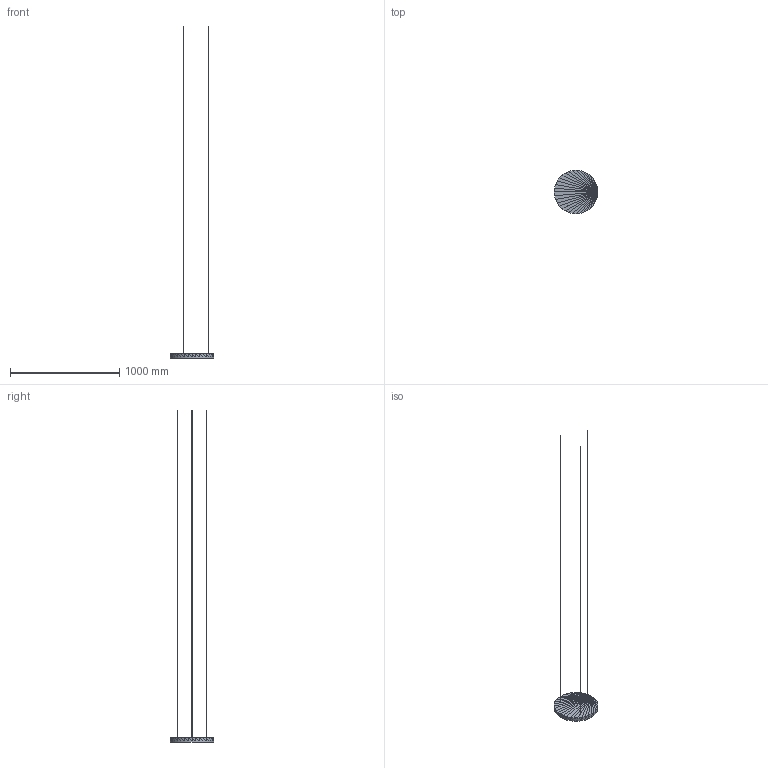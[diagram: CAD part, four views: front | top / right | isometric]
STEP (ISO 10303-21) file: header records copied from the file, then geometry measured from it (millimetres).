
FILE_DESCRIPTION(('ISINAC STEP AP214'),'2;1');
FILE_NAME('ISINAC_CIR.400_40mm_COLGADO','2026-05-03T10:49:19',('ISINAC'),('www.isinac.com'),'ISINAC BIM Generator 1.0','','');
FILE_SCHEMA(('AUTOMOTIVE_DESIGN'));
Length unit declared in the file: millimetre
Products named in the file (1): ISINAC_CIR.400_40mm_COLGADO
Bounding box: 400 x 400 x 3040 mm (x, y, z)
Surface area: 381289.4 mm2 (no closed solid volume)
Topology: 0 solids, 200 shells, 200 faces, 600 edges, 600 vertices
Faces by surface type: plane 200
Entity records: 2213 total; most frequent: CARTESIAN_POINT 800, DIRECTION 400, POLY_LOOP 200, FACE_OUTER_BOUND 200, AXIS2_PLACEMENT_3D 200, PLANE 200, FACE_SURFACE 200, CLOSED_SHELL 1
